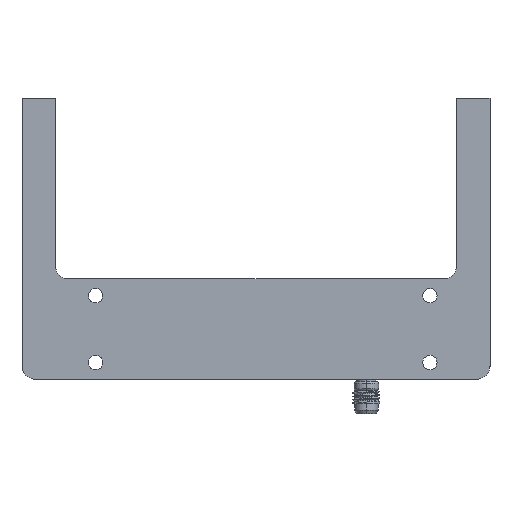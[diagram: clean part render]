
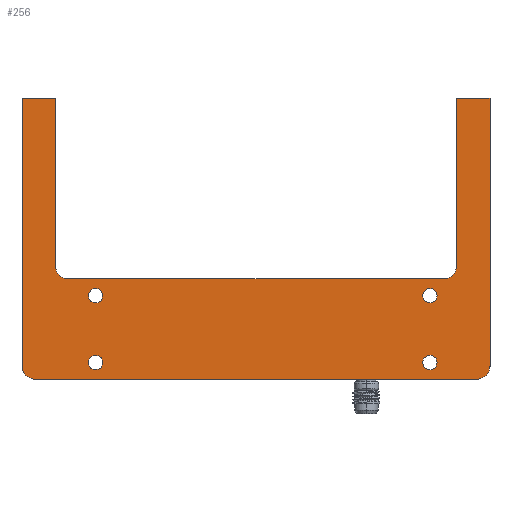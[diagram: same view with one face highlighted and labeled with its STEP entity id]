
A CAD part, top view. The second image highlights one B-rep face of the part: STEP entity #256.
In plain terms, the highlighted planar face has unit normal (0, 0, 1).
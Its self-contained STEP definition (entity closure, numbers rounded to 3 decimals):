
#256=ADVANCED_FACE('',(#516,#517,#518,#519,#520),#521,.T.);
#516=FACE_BOUND('',#2163,.T.);
#517=FACE_BOUND('',#2164,.T.);
#518=FACE_BOUND('',#2165,.T.);
#519=FACE_BOUND('',#2166,.T.);
#520=FACE_OUTER_BOUND('',#2167,.T.);
#521=PLANE('',#2168);
#2163=EDGE_LOOP('',(#2843,#2844));
#2164=EDGE_LOOP('',(#2845,#2846));
#2165=EDGE_LOOP('',(#2847,#2848));
#2166=EDGE_LOOP('',(#2849,#2850));
#2167=EDGE_LOOP('',(#2851,#2852,#2853,#2854,#2855,#2856,#2857,#2858,#2859,#2860,#2861,#2862,#2863,#2864,#2865,#2866,#2867));
#2168=AXIS2_PLACEMENT_3D('',#2868,#2869,#2870);
#2843=ORIENTED_EDGE('',*,*,#3148,.T.);
#2844=ORIENTED_EDGE('',*,*,#2944,.T.);
#2845=ORIENTED_EDGE('',*,*,#2952,.T.);
#2846=ORIENTED_EDGE('',*,*,#3174,.T.);
#2847=ORIENTED_EDGE('',*,*,#3048,.T.);
#2848=ORIENTED_EDGE('',*,*,#3108,.T.);
#2849=ORIENTED_EDGE('',*,*,#3081,.T.);
#2850=ORIENTED_EDGE('',*,*,#3018,.T.);
#2851=ORIENTED_EDGE('',*,*,#2898,.F.);
#2852=ORIENTED_EDGE('',*,*,#3175,.F.);
#2853=ORIENTED_EDGE('',*,*,#3153,.F.);
#2854=ORIENTED_EDGE('',*,*,#3162,.F.);
#2855=ORIENTED_EDGE('',*,*,#3043,.F.);
#2856=ORIENTED_EDGE('',*,*,#3079,.F.);
#2857=ORIENTED_EDGE('',*,*,#2998,.T.);
#2858=ORIENTED_EDGE('',*,*,#3020,.F.);
#2859=ORIENTED_EDGE('',*,*,#3165,.F.);
#2860=ORIENTED_EDGE('',*,*,#3074,.F.);
#2861=ORIENTED_EDGE('',*,*,#3055,.F.);
#2862=ORIENTED_EDGE('',*,*,#3145,.F.);
#2863=ORIENTED_EDGE('',*,*,#2928,.F.);
#2864=ORIENTED_EDGE('',*,*,#3058,.F.);
#2865=ORIENTED_EDGE('',*,*,#2976,.T.);
#2866=ORIENTED_EDGE('',*,*,#3122,.T.);
#2867=ORIENTED_EDGE('',*,*,#3139,.F.);
#2868=CARTESIAN_POINT('',(52.0,-22.0,5.0));
#2869=DIRECTION('',(0.0,0.0,1.0));
#2870=DIRECTION('',(1.0,0.0,0.0));
#2898=EDGE_CURVE('',#3181,#3183,#3184,.T.);
#2928=EDGE_CURVE('',#3235,#3237,#3238,.T.);
#2944=EDGE_CURVE('',#3258,#3263,#3265,.T.);
#2952=EDGE_CURVE('',#3279,#3276,#3280,.T.);
#2976=EDGE_CURVE('',#3314,#3319,#3321,.T.);
#2998=EDGE_CURVE('',#3349,#3353,#3355,.T.);
#3018=EDGE_CURVE('',#3377,#3382,#3384,.T.);
#3020=EDGE_CURVE('',#3386,#3353,#3387,.T.);
#3043=EDGE_CURVE('',#3416,#3419,#3420,.T.);
#3048=EDGE_CURVE('',#3428,#3425,#3429,.T.);
#3055=EDGE_CURVE('',#3439,#3435,#3441,.T.);
#3058=EDGE_CURVE('',#3314,#3235,#3444,.T.);
#3074=EDGE_CURVE('',#3435,#3466,#3467,.T.);
#3079=EDGE_CURVE('',#3349,#3416,#3473,.T.);
#3081=EDGE_CURVE('',#3382,#3377,#3475,.T.);
#3108=EDGE_CURVE('',#3425,#3428,#3509,.T.);
#3122=EDGE_CURVE('',#3319,#3527,#3529,.T.);
#3139=EDGE_CURVE('',#3183,#3527,#3550,.T.);
#3145=EDGE_CURVE('',#3237,#3439,#3556,.T.);
#3148=EDGE_CURVE('',#3263,#3258,#3559,.T.);
#3153=EDGE_CURVE('',#3564,#3562,#3566,.T.);
#3162=EDGE_CURVE('',#3419,#3564,#3576,.T.);
#3165=EDGE_CURVE('',#3466,#3386,#3579,.T.);
#3174=EDGE_CURVE('',#3276,#3279,#3588,.T.);
#3175=EDGE_CURVE('',#3562,#3181,#3589,.T.);
#3181=VERTEX_POINT('',#3595);
#3183=VERTEX_POINT('',#3598);
#3184=LINE('',#3599,#3600);
#3235=VERTEX_POINT('',#3745);
#3237=VERTEX_POINT('',#3748);
#3238=CIRCLE('',#3749,4.0);
#3258=VERTEX_POINT('',#3806);
#3263=VERTEX_POINT('',#3812);
#3265=CIRCLE('',#3815,2.15);
#3276=VERTEX_POINT('',#3828);
#3279=VERTEX_POINT('',#3832);
#3280=CIRCLE('',#3833,2.15);
#3314=VERTEX_POINT('',#3918);
#3319=VERTEX_POINT('',#3925);
#3321=LINE('',#3928,#3929);
#3349=VERTEX_POINT('',#3961);
#3353=VERTEX_POINT('',#3967);
#3355=LINE('',#3970,#3971);
#3377=VERTEX_POINT('',#4083);
#3382=VERTEX_POINT('',#4089);
#3384=CIRCLE('',#4092,2.15);
#3386=VERTEX_POINT('',#4094);
#3387=LINE('',#4095,#4096);
#3416=VERTEX_POINT('',#4227);
#3419=VERTEX_POINT('',#4231);
#3420=CIRCLE('',#4232,4.0);
#3425=VERTEX_POINT('',#4238);
#3428=VERTEX_POINT('',#4242);
#3429=CIRCLE('',#4243,2.15);
#3435=VERTEX_POINT('',#4250);
#3439=VERTEX_POINT('',#4255);
#3441=CIRCLE('',#4258,4.0);
#3444=CIRCLE('',#4261,4.0);
#3466=VERTEX_POINT('',#4451);
#3467=CIRCLE('',#4452,4.0);
#3473=CIRCLE('',#4459,4.0);
#3475=CIRCLE('',#4461,2.15);
#3509=CIRCLE('',#4637,2.15);
#3527=VERTEX_POINT('',#4658);
#3529=LINE('',#4661,#4662);
#3550=LINE('',#4690,#4691);
#3556=LINE('',#4698,#4699);
#3559=CIRCLE('',#4702,2.15);
#3562=VERTEX_POINT('',#4705);
#3564=VERTEX_POINT('',#4708);
#3566=CIRCLE('',#4711,4.0);
#3576=LINE('',#4723,#4724);
#3579=LINE('',#4727,#4728);
#3588=CIRCLE('',#4737,2.15);
#3589=CIRCLE('',#4738,4.0);
#3595=CARTESIAN_POINT('',(60.0,-2.875,5.0));
#3598=CARTESIAN_POINT('',(60.0,47.125,5.0));
#3599=CARTESIAN_POINT('',(60.0,-2.875,5.0));
#3600=VECTOR('',#4743,1.0);
#3745=CARTESIAN_POINT('',(68.828,-35.703,5.0));
#3748=CARTESIAN_POINT('',(66.0,-36.875,5.0));
#3749=AXIS2_PLACEMENT_3D('',#4775,#4776,#4777);
#3806=CARTESIAN_POINT('',(54.15,-31.875,5.0));
#3812=CARTESIAN_POINT('',(49.85,-31.875,5.0));
#3815=AXIS2_PLACEMENT_3D('',#4798,#4799,#4800);
#3828=CARTESIAN_POINT('',(54.15,-11.875,5.0));
#3832=CARTESIAN_POINT('',(49.85,-11.875,5.0));
#3833=AXIS2_PLACEMENT_3D('',#4810,#4811,#4812);
#3918=CARTESIAN_POINT('',(69.998,-33.0,5.0));
#3925=CARTESIAN_POINT('',(70.0,-33.0,5.0));
#3928=CARTESIAN_POINT('',(65.0,-33.0,5.0));
#3929=VECTOR('',#4844,1.0);
#3961=CARTESIAN_POINT('',(-60.0,-2.875,5.0));
#3967=CARTESIAN_POINT('',(-60.0,47.125,5.0));
#3970=CARTESIAN_POINT('',(-60.0,9.5,5.0));
#3971=VECTOR('',#4876,1.0);
#4083=CARTESIAN_POINT('',(-45.85,-11.875,5.0));
#4089=CARTESIAN_POINT('',(-50.15,-11.875,5.0));
#4092=AXIS2_PLACEMENT_3D('',#4899,#4900,#4901);
#4094=CARTESIAN_POINT('',(-70.0,47.125,5.0));
#4095=CARTESIAN_POINT('',(-70.0,47.125,5.0));
#4096=VECTOR('',#4902,1.0);
#4227=CARTESIAN_POINT('',(-58.828,-5.703,5.0));
#4231=CARTESIAN_POINT('',(-56.0,-6.875,5.0));
#4232=AXIS2_PLACEMENT_3D('',#4917,#4918,#4919);
#4238=CARTESIAN_POINT('',(-45.85,-31.875,5.0));
#4242=CARTESIAN_POINT('',(-50.15,-31.875,5.0));
#4243=AXIS2_PLACEMENT_3D('',#4925,#4926,#4927);
#4250=CARTESIAN_POINT('',(-68.828,-35.703,5.0));
#4255=CARTESIAN_POINT('',(-66.0,-36.875,5.0));
#4258=AXIS2_PLACEMENT_3D('',#4937,#4938,#4939);
#4261=AXIS2_PLACEMENT_3D('',#4943,#4944,#4945);
#4451=CARTESIAN_POINT('',(-70.0,-32.875,5.0));
#4452=AXIS2_PLACEMENT_3D('',#4949,#4950,#4951);
#4459=AXIS2_PLACEMENT_3D('',#4959,#4960,#4961);
#4461=AXIS2_PLACEMENT_3D('',#4962,#4963,#4964);
#4637=AXIS2_PLACEMENT_3D('',#4984,#4985,#4986);
#4658=CARTESIAN_POINT('',(70.0,47.125,5.0));
#4661=CARTESIAN_POINT('',(70.0,7.,5.0));
#4662=VECTOR('',#5006,1.0);
#4690=CARTESIAN_POINT('',(60.0,47.125,5.0));
#4691=VECTOR('',#5029,1.0);
#4698=CARTESIAN_POINT('',(70.0,-36.875,5.0));
#4699=VECTOR('',#5037,1.0);
#4702=AXIS2_PLACEMENT_3D('',#5041,#5042,#5043);
#4705=CARTESIAN_POINT('',(58.828,-5.703,5.0));
#4708=CARTESIAN_POINT('',(56.0,-6.875,5.0));
#4711=AXIS2_PLACEMENT_3D('',#5046,#5047,#5048);
#4723=CARTESIAN_POINT('',(-56.0,-6.875,5.0));
#4724=VECTOR('',#5051,1.0);
#4727=CARTESIAN_POINT('',(-70.0,-36.875,5.0));
#4728=VECTOR('',#5052,1.0);
#4737=AXIS2_PLACEMENT_3D('',#5059,#5060,#5061);
#4738=AXIS2_PLACEMENT_3D('',#5062,#5063,#5064);
#4743=DIRECTION('',(0.,1.0,0.0));
#4775=CARTESIAN_POINT('',(66.0,-32.875,5.0));
#4776=DIRECTION('',(0.0,0.0,-1.0));
#4777=DIRECTION('',(0.707,-0.707,0.0));
#4798=CARTESIAN_POINT('',(52.0,-31.875,5.0));
#4799=DIRECTION('',(0.0,0.0,-1.0));
#4800=DIRECTION('',(1.0,0.,0.0));
#4810=CARTESIAN_POINT('',(52.0,-11.875,5.0));
#4811=DIRECTION('',(0.0,0.0,-1.0));
#4812=DIRECTION('',(1.0,0.,0.0));
#4844=DIRECTION('',(1.0,0.0,0.0));
#4876=DIRECTION('',(0.0,1.0,0.0));
#4899=CARTESIAN_POINT('',(-48.0,-11.875,5.0));
#4900=DIRECTION('',(0.0,0.0,-1.0));
#4901=DIRECTION('',(1.0,0.,0.0));
#4902=DIRECTION('',(1.0,0.,0.0));
#4917=CARTESIAN_POINT('',(-56.0,-2.875,5.0));
#4918=DIRECTION('',(0.0,0.0,1.0));
#4919=DIRECTION('',(-0.707,-0.707,0.0));
#4925=CARTESIAN_POINT('',(-48.0,-31.875,5.0));
#4926=DIRECTION('',(0.0,0.0,-1.0));
#4927=DIRECTION('',(1.0,0.,0.0));
#4937=CARTESIAN_POINT('',(-66.0,-32.875,5.0));
#4938=DIRECTION('',(-0.0,0.0,-1.0));
#4939=DIRECTION('',(-0.707,-0.707,0.0));
#4943=CARTESIAN_POINT('',(66.0,-32.875,5.0));
#4944=DIRECTION('',(0.0,0.0,-1.0));
#4945=DIRECTION('',(0.707,-0.707,0.0));
#4949=CARTESIAN_POINT('',(-66.0,-32.875,5.0));
#4950=DIRECTION('',(-0.0,0.0,-1.0));
#4951=DIRECTION('',(-0.707,-0.707,0.0));
#4959=CARTESIAN_POINT('',(-56.0,-2.875,5.0));
#4960=DIRECTION('',(0.0,0.0,1.0));
#4961=DIRECTION('',(-0.707,-0.707,0.0));
#4962=CARTESIAN_POINT('',(-48.0,-11.875,5.0));
#4963=DIRECTION('',(0.0,0.0,-1.0));
#4964=DIRECTION('',(1.0,0.,0.0));
#4984=CARTESIAN_POINT('',(-48.0,-31.875,5.0));
#4985=DIRECTION('',(0.0,0.0,-1.0));
#4986=DIRECTION('',(1.0,0.,0.0));
#5006=DIRECTION('',(0.0,1.0,0.0));
#5029=DIRECTION('',(1.0,0.,0.0));
#5037=DIRECTION('',(-1.0,0.,0.0));
#5041=CARTESIAN_POINT('',(52.0,-31.875,5.0));
#5042=DIRECTION('',(0.0,0.0,-1.0));
#5043=DIRECTION('',(1.0,0.,0.0));
#5046=CARTESIAN_POINT('',(56.0,-2.875,5.0));
#5047=DIRECTION('',(0.0,0.0,1.0));
#5048=DIRECTION('',(0.707,-0.707,0.0));
#5051=DIRECTION('',(1.0,0.,0.0));
#5052=DIRECTION('',(0.,1.0,0.0));
#5059=CARTESIAN_POINT('',(52.0,-11.875,5.0));
#5060=DIRECTION('',(0.0,0.0,-1.0));
#5061=DIRECTION('',(1.0,0.,0.0));
#5062=CARTESIAN_POINT('',(56.0,-2.875,5.0));
#5063=DIRECTION('',(0.0,0.0,1.0));
#5064=DIRECTION('',(0.707,-0.707,0.0));
